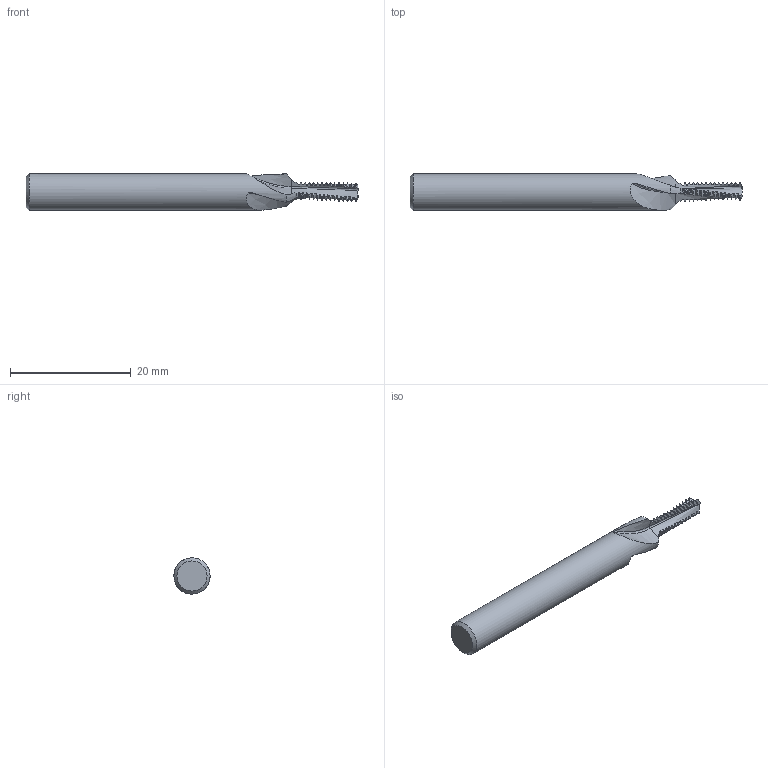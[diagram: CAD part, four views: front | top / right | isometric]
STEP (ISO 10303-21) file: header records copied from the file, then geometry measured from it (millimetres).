
FILE_DESCRIPTION(/* description */ (''),/* implementation_level */ '2;1');
FILE_NAME(/* name */ '00057460-STEP',/* time_stamp */ '2024-02-12T07:19:24+01:00',/* author */ (''),/* organization */ (''),/* preprocessor_version */ 'ST-DEVELOPER v16.5',/* originating_system */ 'HiCAD 2017 2201.0 Build 268',/* authorisation */ '');
FILE_SCHEMA (('AUTOMOTIVE_DESIGN { 1 0 10303 214 1 1 1 1 }'));
Length unit declared in the file: millimetre
Products named in the file (2): Root; ROTATIONSTEIL_0
Assembly tree (1 placements, depth 2):
  Root
    ROTATIONSTEIL_0
Bounding box: 55 x 6 x 6 mm (x, y, z)
Volume: 1175 mm3; surface area: 985.9 mm2
Topology: 1 solids, 1 shells, 283 faces, 839 edges, 558 vertices
Faces by surface type: cone 91, cylinder 88, torus 84, bspline 18, plane 2
Full cylindrical faces by diameter (mm): 6 x1
Entity records: 28461 total; most frequent: CARTESIAN_POINT 14045, PRESENTATION_STYLE_ASSIGNMENT 1669, COLOUR_RGB 1669, DRAUGHTING_PRE_DEFINED_CURVE_FONT 1668, CURVE_STYLE 1668, OVER_RIDING_STYLED_ITEM 1668, ORIENTED_EDGE 1668, DIRECTION 1066
